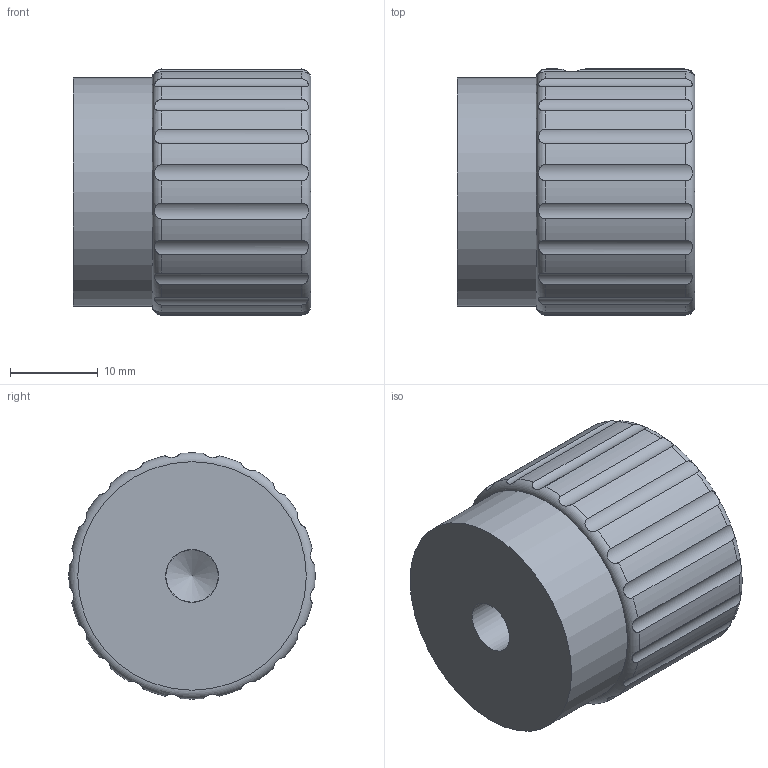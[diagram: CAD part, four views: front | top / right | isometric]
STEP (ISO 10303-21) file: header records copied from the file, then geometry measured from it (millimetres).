
FILE_DESCRIPTION( ( 'STEP AP203' ), '1' );
FILE_NAME( 'C:/Temp/Ganter_Step_05_03_2020/data/1_4/gn_436_1/gn_436_1_b/Stainless Steel-Control knob GN 436.1-28-B6-B-MT.stp', '2020-03-05T10:48:44', ( 'License CC BY-ND 4.0' ), ( 'CADENAS' ), ' ', 'PARTsolutions', ' ' );
FILE_SCHEMA( ( 'CONFIG_CONTROL_DESIGN' ) );
Length unit declared in the file: millimetre
Products named in the file (1): _Stainless Steel-Control knob GN 436.1-28-B6-B-MT
Bounding box: 27 x 27.99 x 27.99 mm (x, y, z)
Volume: 15003.4 mm3; surface area: 3995.6 mm2
Topology: 1 solids, 1 shells, 63 faces, 173 edges, 115 vertices
Faces by surface type: cylinder 46, plane 12, cone 3, torus 2
Full cylindrical faces by diameter (mm): 3.242 x2, 5.96 x1, 6 x1, 26 x1
Entity records: 2638 total; most frequent: CARTESIAN_POINT 1112, ORIENTED_EDGE 312, DIRECTION 290, EDGE_CURVE 156, AXIS2_PLACEMENT_3D 115, VERTEX_POINT 109, EDGE_LOOP 76, FACE_OUTER_BOUND 70
